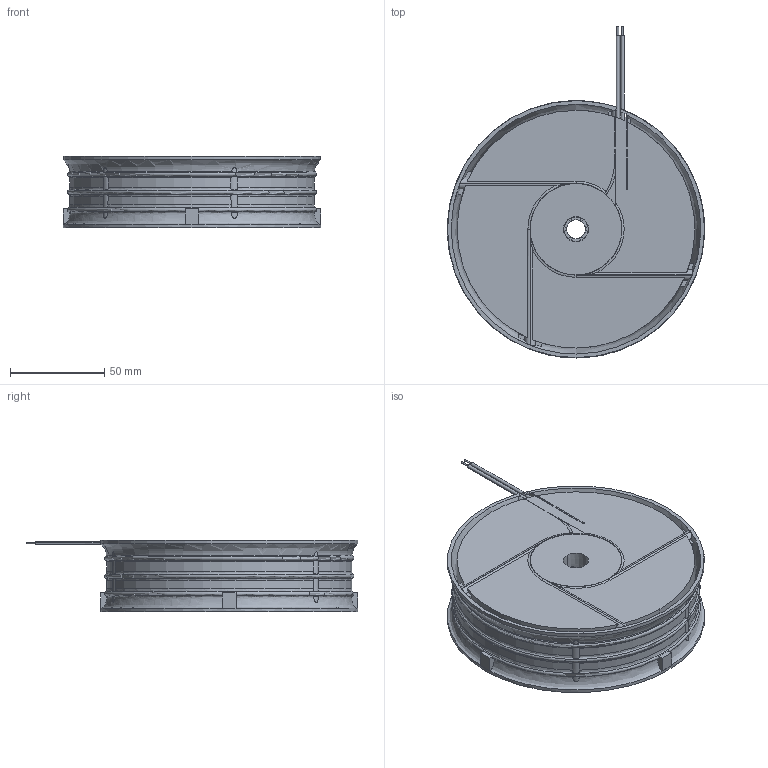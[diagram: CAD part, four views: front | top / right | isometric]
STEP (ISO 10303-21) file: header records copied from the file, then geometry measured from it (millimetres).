
FILE_DESCRIPTION((''),'2;1');
FILE_NAME('PRT0001','2026-07-23T08:36:04',('pc'),(''),'CREO PARAMETRIC BY PTC INC, 2018050','CREO PARAMETRIC BY PTC INC, 2018050','');
FILE_SCHEMA(('CONFIG_CONTROL_DESIGN','GEOMETRIC_VALIDATION_PROPERTIES_MIM'));
Length unit declared in the file: millimetre
Products named in the file (1): PRT0001
Bounding box: 136.39 x 175.87 x 37.85 mm (x, y, z)
Volume: 404715.1 mm3; surface area: 74393.3 mm2
Topology: 1 solids, 1 shells, 294 faces, 920 edges, 626 vertices
Faces by surface type: plane 131, cylinder 83, revolution 32, bspline 19, torus 15, cone 14
Entity records: 14182 total; most frequent: CARTESIAN_POINT 6233, ORIENTED_EDGE 1840, DIRECTION 1371, EDGE_CURVE 920, VERTEX_POINT 626, AXIS2_PLACEMENT_3D 525, B_SPLINE_CURVE_WITH_KNOTS 381, EDGE_LOOP 316
